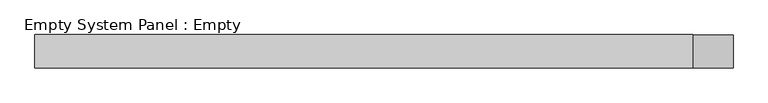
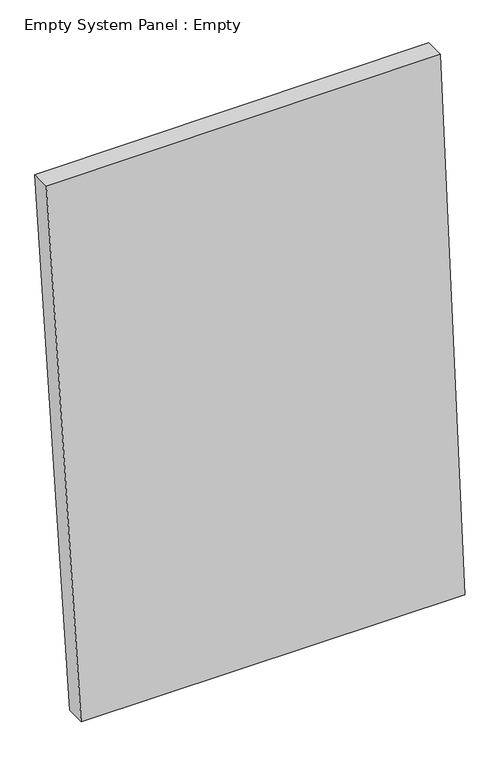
"""IFC4 building model written with IfcOpenShell, lengths in millimetres: plate geometry, Empty System Panel : Empty."""

from ifc_helpers import new_model, si_unit, frame, origin, place, context, project, spatial, polyline, outline, extrude, source, transform, mapped, element, save


def empty_system_panel_empty_a2144f1a(model_context):
    return source(origin(), model_context, "Body", "SweptSolid", [
        extrude(outline(polyline([(0.0, -892.5087992), (0.0, 1069.7034732), (2965.2292797, 945.8822608), (2956.7522717, -1069.7034732), (0.0, -892.5087992)])), frame((0.0, -50.8, 0.0), z_axis=(0.0, 1.0, 0.0), x_axis=(0.0, 0.0, 1.0)), (0.0, 0.0, 1.0), 101.6),
    ])


if __name__ == "__main__":
    model = new_model("IFC4")
    model_context = context("Model", 3, world=origin())
    ifc_project = project(units=[si_unit("LENGTHUNIT", "METRE", prefix="MILLI")], contexts=[model_context])
    site = spatial("IfcSite", under=ifc_project)
    building = spatial("IfcBuilding", under=site)
    placement = place(None, origin())
    empty_system_panel_empty_shape = empty_system_panel_empty_a2144f1a(model_context)
    element("IfcPlate", 1, ObjectType="Empty System Panel : Empty", at=placement, inside=building, context=model_context, shape_type="MappedRepresentation", body=[
        mapped(empty_system_panel_empty_shape, transform((0.0, 0.0, 0.0), x_axis=(1.0, 0.0, 0.0), y_axis=(0.0, 1.0, 0.0), z_axis=(0.0, 0.0, 1.0))),
    ])
    save(model, "model.ifc")
